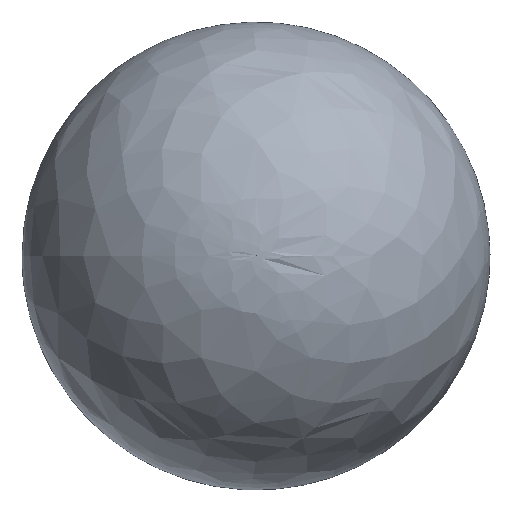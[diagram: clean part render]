
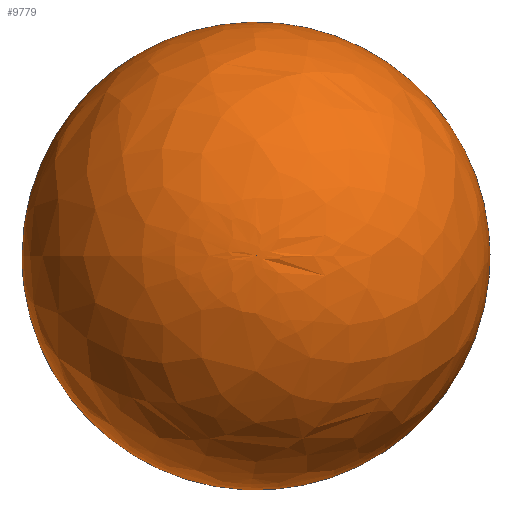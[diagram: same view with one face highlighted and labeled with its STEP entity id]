
A CAD part, top view. The second image highlights one B-rep face of the part: STEP entity #9779.
In plain terms, the highlighted free-form (B-spline) face has degree [3, 3] with [4, 7] control points.
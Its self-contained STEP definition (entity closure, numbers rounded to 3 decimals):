
#133=VERTEX_LOOP('',#22480);
#162=(
BOUNDED_SURFACE()
B_SPLINE_SURFACE(3,3,((#44378,#44379,#44380,#44381,#44382,#44383,#44384),
(#44385,#44386,#44387,#44388,#44389,#44390,#44391),(#44392,#44393,#44394,
#44395,#44396,#44397,#44398),(#44399,#44400,#44401,#44402,#44403,#44404,
#44405)),.UNSPECIFIED.,.F.,.T.,.F.)
B_SPLINE_SURFACE_WITH_KNOTS((4,4),(1,3,3,3,1),(0.,1.),(-0.5,0.,0.5,1.,1.5),
 .UNSPECIFIED.)
GEOMETRIC_REPRESENTATION_ITEM()
RATIONAL_B_SPLINE_SURFACE(((1.,0.333,0.333,1.,0.333,
0.333,1.),(0.798,0.266,0.266,
0.798,0.266,0.266,0.798),
(0.798,0.266,0.266,0.798,
0.266,0.266,0.798),(1.,0.333,
0.333,1.,0.333,0.333,1.)))
REPRESENTATION_ITEM('')
SURFACE()
);
#3913=FACE_BOUND('',#13077,.T.);
#3914=FACE_BOUND('',#133,.T.);
#4440=B_SPLINE_CURVE_WITH_KNOTS('',3,(#44342,#44343,#44344,#44345,#44346,
#44347,#44348,#44349,#44350,#44351,#44352,#44353,#44354,#44355,#44356,#44357,
#44358,#44359,#44360,#44361,#44362,#44363,#44364,#44365,#44366,#44367,#44368,
#44369,#44370,#44371,#44372,#44373,#44374,#44375),.UNSPECIFIED.,.T.,.F.,
(2,2,2,2,2,2,2,2,2,2,2,2,2,2,2,2,2,2,2),(-0.063,0.,0.063,0.125,0.188,
0.25,0.313,0.375,0.438,0.5,0.563,0.625,0.688,0.75,0.813,0.875,0.938,
1.,1.063),.UNSPECIFIED.);
#9779=ADVANCED_FACE('',(#3913,#3914),#162,.T.);
#13077=EDGE_LOOP('',(#16477));
#16477=ORIENTED_EDGE('',*,*,#25191,.F.);
#22479=VERTEX_POINT('',#44376);
#22480=VERTEX_POINT('',#44377);
#25191=EDGE_CURVE('',#22479,#22479,#4440,.T.);
#44342=CARTESIAN_POINT('',(244.582,11.004,41.098));
#44343=CARTESIAN_POINT('',(239.174,-52.319,41.098));
#44344=CARTESIAN_POINT('',(230.175,-83.431,41.098));
#44345=CARTESIAN_POINT('',(200.946,-139.865,41.098));
#44346=CARTESIAN_POINT('',(180.727,-165.165,41.098));
#44347=CARTESIAN_POINT('',(132.126,-206.117,41.098));
#44348=CARTESIAN_POINT('',(103.764,-221.753,41.098));
#44349=CARTESIAN_POINT('',(43.191,-240.99,41.098));
#44350=CARTESIAN_POINT('',(11.004,-244.582,41.098));
#44351=CARTESIAN_POINT('',(-52.319,-239.174,41.098));
#44352=CARTESIAN_POINT('',(-83.431,-230.175,41.098));
#44353=CARTESIAN_POINT('',(-139.865,-200.946,41.098));
#44354=CARTESIAN_POINT('',(-165.165,-180.727,41.098));
#44355=CARTESIAN_POINT('',(-206.117,-132.126,41.098));
#44356=CARTESIAN_POINT('',(-221.753,-103.764,41.098));
#44357=CARTESIAN_POINT('',(-240.99,-43.191,41.098));
#44358=CARTESIAN_POINT('',(-244.582,-11.004,41.098));
#44359=CARTESIAN_POINT('',(-239.174,52.319,41.098));
#44360=CARTESIAN_POINT('',(-230.175,83.431,41.098));
#44361=CARTESIAN_POINT('',(-200.946,139.865,41.098));
#44362=CARTESIAN_POINT('',(-180.727,165.165,41.098));
#44363=CARTESIAN_POINT('',(-132.126,206.117,41.098));
#44364=CARTESIAN_POINT('',(-103.764,221.753,41.098));
#44365=CARTESIAN_POINT('',(-43.191,240.99,41.098));
#44366=CARTESIAN_POINT('',(-11.004,244.582,41.098));
#44367=CARTESIAN_POINT('',(52.319,239.174,41.098));
#44368=CARTESIAN_POINT('',(83.431,230.175,41.098));
#44369=CARTESIAN_POINT('',(139.865,200.946,41.098));
#44370=CARTESIAN_POINT('',(165.165,180.727,41.098));
#44371=CARTESIAN_POINT('',(206.117,132.126,41.098));
#44372=CARTESIAN_POINT('',(221.753,103.764,41.098));
#44373=CARTESIAN_POINT('',(240.99,43.191,41.098));
#44374=CARTESIAN_POINT('',(244.582,11.004,41.098));
#44375=CARTESIAN_POINT('',(239.174,-52.319,41.098));
#44376=CARTESIAN_POINT('',(241.878,-20.658,41.097));
#44377=CARTESIAN_POINT('',(0.,0.,287.581));
#44378=CARTESIAN_POINT('',(-242.758,0.,41.098));
#44379=CARTESIAN_POINT('',(-242.758,485.517,41.098));
#44380=CARTESIAN_POINT('',(242.758,485.517,41.098));
#44381=CARTESIAN_POINT('',(242.758,0.,41.098));
#44382=CARTESIAN_POINT('',(242.758,-485.517,41.098));
#44383=CARTESIAN_POINT('',(-242.758,-485.517,41.098));
#44384=CARTESIAN_POINT('',(-242.758,0.,41.098));
#44385=CARTESIAN_POINT('',(-246.015,0.,185.633));
#44386=CARTESIAN_POINT('',(-246.015,492.029,185.633));
#44387=CARTESIAN_POINT('',(246.015,492.029,185.633));
#44388=CARTESIAN_POINT('',(246.015,0.,185.633));
#44389=CARTESIAN_POINT('',(246.015,-492.029,185.633));
#44390=CARTESIAN_POINT('',(-246.015,-492.029,185.633));
#44391=CARTESIAN_POINT('',(-246.015,0.,185.633));
#44392=CARTESIAN_POINT('',(-144.568,0.,288.636));
#44393=CARTESIAN_POINT('',(-144.568,289.136,288.636));
#44394=CARTESIAN_POINT('',(144.568,289.136,288.636));
#44395=CARTESIAN_POINT('',(144.568,0.,288.636));
#44396=CARTESIAN_POINT('',(144.568,-289.136,288.636));
#44397=CARTESIAN_POINT('',(-144.568,-289.136,288.636));
#44398=CARTESIAN_POINT('',(-144.568,0.,288.636));
#44399=CARTESIAN_POINT('',(0.,0.,287.581));
#44400=CARTESIAN_POINT('',(0.,0.,287.581));
#44401=CARTESIAN_POINT('',(0.,0.,287.581));
#44402=CARTESIAN_POINT('',(0.,0.,287.581));
#44403=CARTESIAN_POINT('',(0.,0.,287.581));
#44404=CARTESIAN_POINT('',(0.,0.,287.581));
#44405=CARTESIAN_POINT('',(0.,0.,287.581));
